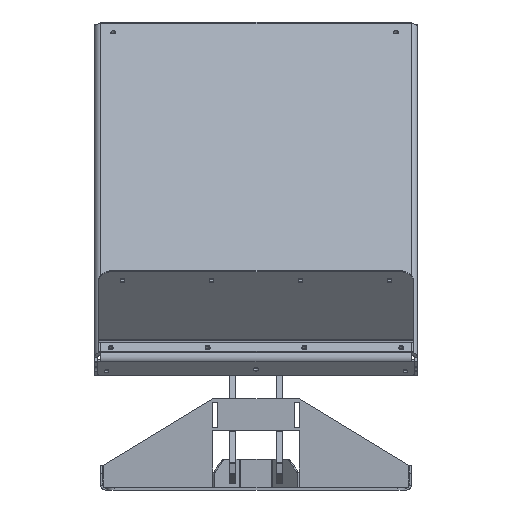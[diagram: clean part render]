
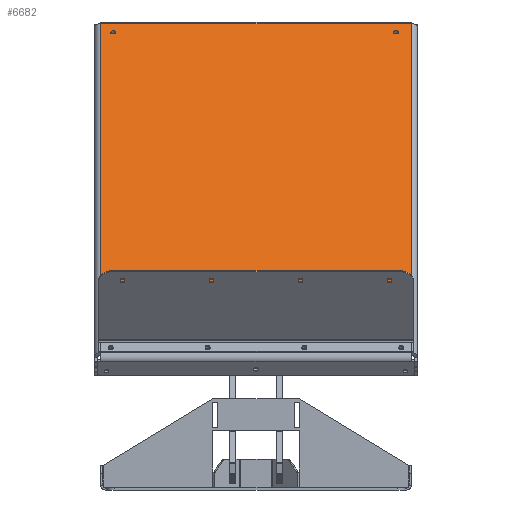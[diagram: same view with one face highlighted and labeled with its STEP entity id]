
A CAD part, left-side view. The second image highlights one B-rep face of the part: STEP entity #6682.
In plain terms, the highlighted planar face has unit normal (-0.643, 0, 0.766) as drawn and (0, 0, -1) by its records, which use the part's own axes.
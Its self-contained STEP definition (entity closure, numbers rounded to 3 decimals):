
#226=PLANE('',#7487);
#699=LINE('',#11269,#1266);
#706=LINE('',#11290,#1273);
#710=LINE('',#11307,#1277);
#714=LINE('',#11321,#1281);
#1266=VECTOR('',#9260,10.);
#1273=VECTOR('',#9287,10.);
#1277=VECTOR('',#9313,10.);
#1281=VECTOR('',#9335,10.);
#1475=FACE_BOUND('',#2249,.T.);
#1476=FACE_BOUND('',#2250,.T.);
#1477=FACE_BOUND('',#2251,.T.);
#1478=FACE_BOUND('',#2252,.T.);
#1479=FACE_BOUND('',#2253,.T.);
#1480=FACE_BOUND('',#2254,.T.);
#1808=FACE_OUTER_BOUND('',#2248,.T.);
#2248=EDGE_LOOP('',(#5864,#5865,#5866,#5867));
#2249=EDGE_LOOP('',(#5868));
#2250=EDGE_LOOP('',(#5869));
#2251=EDGE_LOOP('',(#5870));
#2252=EDGE_LOOP('',(#5871));
#2253=EDGE_LOOP('',(#5872));
#2254=EDGE_LOOP('',(#5873));
#2647=CIRCLE('',#7428,6.25);
#2649=CIRCLE('',#7431,6.25);
#2651=CIRCLE('',#7434,6.25);
#2653=CIRCLE('',#7437,6.25);
#2655=CIRCLE('',#7440,6.25);
#2657=CIRCLE('',#7443,6.25);
#3221=VERTEX_POINT('',#11236);
#3223=VERTEX_POINT('',#11241);
#3225=VERTEX_POINT('',#11246);
#3227=VERTEX_POINT('',#11251);
#3229=VERTEX_POINT('',#11256);
#3231=VERTEX_POINT('',#11261);
#3233=VERTEX_POINT('',#11266);
#3234=VERTEX_POINT('',#11268);
#3238=VERTEX_POINT('',#11289);
#3240=VERTEX_POINT('',#11306);
#4089=EDGE_CURVE('',#3221,#3221,#2647,.T.);
#4091=EDGE_CURVE('',#3223,#3223,#2649,.T.);
#4093=EDGE_CURVE('',#3225,#3225,#2651,.T.);
#4095=EDGE_CURVE('',#3227,#3227,#2653,.T.);
#4097=EDGE_CURVE('',#3229,#3229,#2655,.T.);
#4099=EDGE_CURVE('',#3231,#3231,#2657,.T.);
#4102=EDGE_CURVE('',#3234,#3233,#699,.T.);
#4113=EDGE_CURVE('',#3238,#3234,#706,.T.);
#4121=EDGE_CURVE('',#3240,#3238,#710,.T.);
#4129=EDGE_CURVE('',#3233,#3240,#714,.T.);
#5864=ORIENTED_EDGE('',*,*,#4102,.T.);
#5865=ORIENTED_EDGE('',*,*,#4129,.T.);
#5866=ORIENTED_EDGE('',*,*,#4121,.T.);
#5867=ORIENTED_EDGE('',*,*,#4113,.T.);
#5868=ORIENTED_EDGE('',*,*,#4089,.T.);
#5869=ORIENTED_EDGE('',*,*,#4091,.T.);
#5870=ORIENTED_EDGE('',*,*,#4093,.T.);
#5871=ORIENTED_EDGE('',*,*,#4095,.T.);
#5872=ORIENTED_EDGE('',*,*,#4097,.T.);
#5873=ORIENTED_EDGE('',*,*,#4099,.T.);
#6682=ADVANCED_FACE('',(#1808,#1475,#1476,#1477,#1478,#1479,#1480),#226,
 .F.);
#7428=AXIS2_PLACEMENT_3D('',#11237,#9222,#9223);
#7431=AXIS2_PLACEMENT_3D('',#11242,#9228,#9229);
#7434=AXIS2_PLACEMENT_3D('',#11247,#9234,#9235);
#7437=AXIS2_PLACEMENT_3D('',#11252,#9240,#9241);
#7440=AXIS2_PLACEMENT_3D('',#11257,#9246,#9247);
#7443=AXIS2_PLACEMENT_3D('',#11262,#9252,#9253);
#7487=AXIS2_PLACEMENT_3D('',#11338,#9361,#9362);
#9222=DIRECTION('center_axis',(0.,0.,1.));
#9223=DIRECTION('ref_axis',(1.,0.,0.));
#9228=DIRECTION('center_axis',(0.,0.,1.));
#9229=DIRECTION('ref_axis',(1.,0.,0.));
#9234=DIRECTION('center_axis',(0.,0.,1.));
#9235=DIRECTION('ref_axis',(1.,0.,0.));
#9240=DIRECTION('center_axis',(0.,0.,1.));
#9241=DIRECTION('ref_axis',(1.,0.,0.));
#9246=DIRECTION('center_axis',(0.,0.,1.));
#9247=DIRECTION('ref_axis',(1.,0.,0.));
#9252=DIRECTION('center_axis',(0.,0.,1.));
#9253=DIRECTION('ref_axis',(1.,0.,0.));
#9260=DIRECTION('',(0.,-1.,0.));
#9287=DIRECTION('',(1.,0.,0.));
#9313=DIRECTION('',(0.,1.,0.));
#9335=DIRECTION('',(-1.,0.,0.));
#9361=DIRECTION('center_axis',(0.,0.,1.));
#9362=DIRECTION('ref_axis',(1.,0.,0.));
#11236=CARTESIAN_POINT('',(1243.75,747.,0.));
#11237=CARTESIAN_POINT('Origin',(1250.,747.,0.));
#11241=CARTESIAN_POINT('',(1243.75,47.,0.));
#11242=CARTESIAN_POINT('Origin',(1250.,47.,0.));
#11246=CARTESIAN_POINT('',(26.75,40.,0.));
#11247=CARTESIAN_POINT('Origin',(33.,40.,0.));
#11251=CARTESIAN_POINT('',(26.75,280.,0.));
#11252=CARTESIAN_POINT('Origin',(33.,280.,0.));
#11256=CARTESIAN_POINT('',(26.75,520.,0.));
#11257=CARTESIAN_POINT('Origin',(33.,520.,0.));
#11261=CARTESIAN_POINT('',(26.75,760.,0.));
#11262=CARTESIAN_POINT('Origin',(33.,760.,0.));
#11266=CARTESIAN_POINT('',(1284.,16.,0.));
#11268=CARTESIAN_POINT('',(1284.,784.,0.));
#11269=CARTESIAN_POINT('',(1284.,592.,0.));
#11289=CARTESIAN_POINT('',(16.,784.,0.));
#11290=CARTESIAN_POINT('',(333.,784.,0.));
#11306=CARTESIAN_POINT('',(16.,16.,0.));
#11307=CARTESIAN_POINT('',(16.,208.,0.));
#11321=CARTESIAN_POINT('',(967.,16.,0.));
#11338=CARTESIAN_POINT('Origin',(650.,400.,0.));
